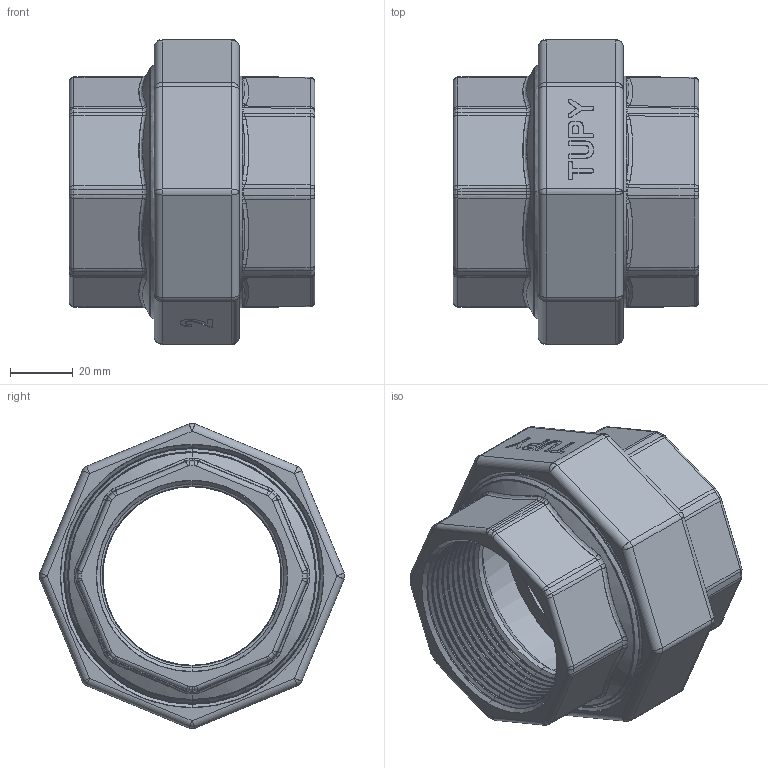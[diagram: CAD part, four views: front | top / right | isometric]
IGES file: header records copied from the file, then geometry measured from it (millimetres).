
Start section: SolidWorks IGES file using analytic representation for surfaces
Global section: file name: C:\Users\Joel Rosa\Desktop\Tubulação\12-63-X\12-63-010.IGS; native system: SolidWorks 2011; preprocessor: SolidWorks 2011; author: Joel Rosa; date: 130721.142607; units: millimetre
Bounding box: 78 x 97 x 97 mm (x, y, z)
Surface area: 71754 mm2 (no closed solid volume)
Topology: 0 solids, 0 shells, 717 faces, 5307 edges, 5301 vertices
Faces by surface type: bspline 468, revolution 249
